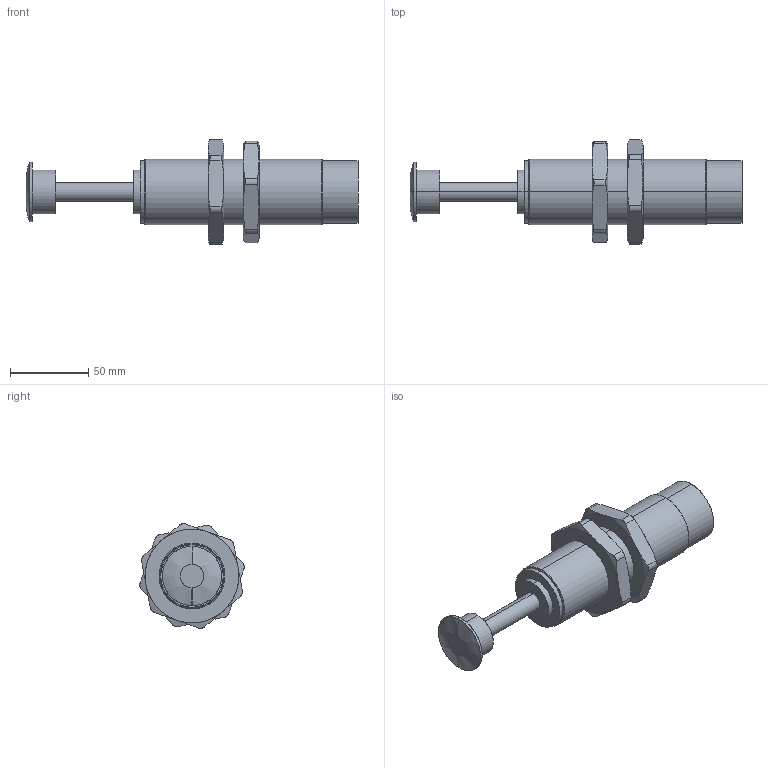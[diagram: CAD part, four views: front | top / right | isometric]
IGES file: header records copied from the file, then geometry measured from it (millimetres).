
Start section: SolidWorks IGES file using analytic representation for surfaces
Global section: file name: C:\Users\Sam Lin\Desktop\48\FSA-4250CC.IGS; native system: SolidWorks 2013; preprocessor: SolidWorks 2013; author: Sam Lin; date: 160317.152617; units: metre
Bounding box: 212.5 x 66.85 x 67.02 mm (x, y, z)
Surface area: 40103.6 mm2 (no closed solid volume)
Topology: 0 solids, 0 shells, 84 faces, 1992 edges, 1992 vertices
Faces by surface type: bspline 50, revolution 34
